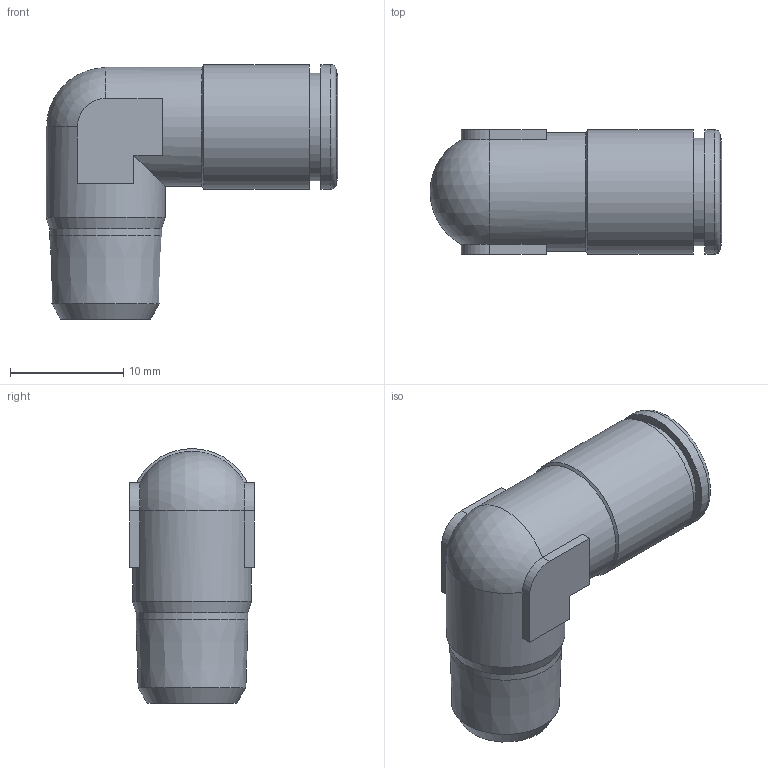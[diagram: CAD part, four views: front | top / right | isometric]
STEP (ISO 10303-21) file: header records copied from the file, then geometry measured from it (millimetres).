
FILE_DESCRIPTION(/* description */ (''),/* implementation_level */ '2;1');
FILE_NAME(/* name */ '201903-ES_STX019_6_R18_09.06.16',/* time_stamp */ '2016-06-09T08:09:05+02:00',/* author */ (''),/* organization */ (''),/* preprocessor_version */ 'ST-DEVELOPER v14',/* originating_system */ 'HiCAD 2013 1802.4 Build 509',/* authorisation */ '');
FILE_SCHEMA (('AUTOMOTIVE_DESIGN { 1 0 10303 214 1 1 1 1 }'));
Length unit declared in the file: millimetre
Products named in the file (3): Root; R201903-ES-N; DR6-1_NEU
Assembly tree (2 placements, depth 2):
  Root
    R201903-ES-N
    DR6-1_NEU
Bounding box: 25.75 x 11 x 22.5 mm (x, y, z)
Volume: 2079.1 mm3; surface area: 2528.4 mm2
Topology: 2 solids, 2 shells, 61 faces, 133 edges, 80 vertices
Faces by surface type: plane 23, cylinder 20, cone 16, sphere 1, torus 1
Full cylindrical faces by diameter (mm): 5 x2, 6.1 x1, 6.2 x1, 8.3 x1, 9 x1, 9.15 x2, 9.5 x1, 9.6 x1, 9.85 x2, 9.884 x1, 10.5 x2, 11 x2
Entity records: 2422 total; most frequent: CARTESIAN_POINT 284, DIRECTION 272, PRESENTATION_STYLE_ASSIGNMENT 182, COLOUR_RGB 181, DRAUGHTING_PRE_DEFINED_CURVE_FONT 180, CURVE_STYLE 180, OVER_RIDING_STYLED_ITEM 180, ORIENTED_EDGE 180
